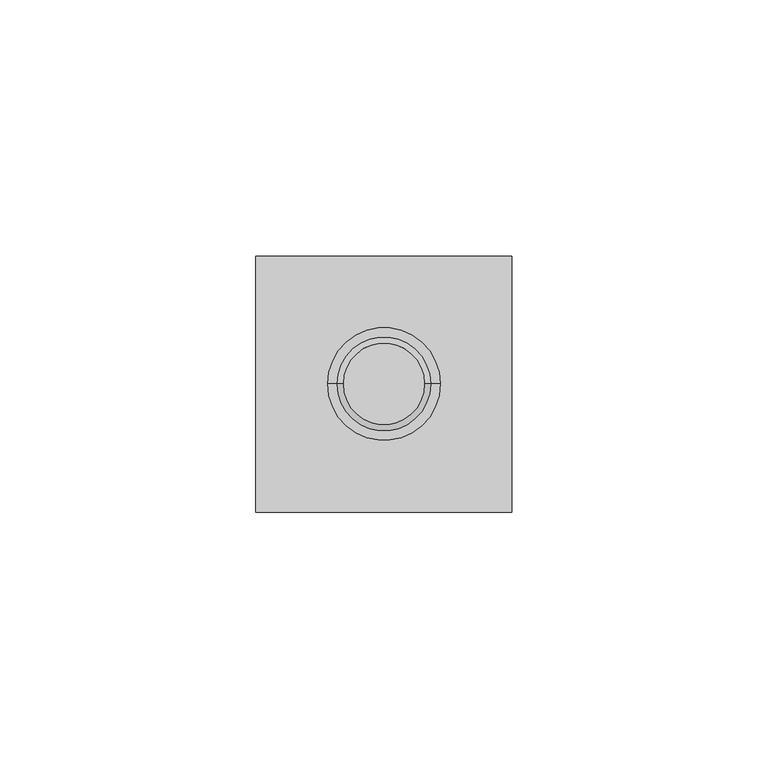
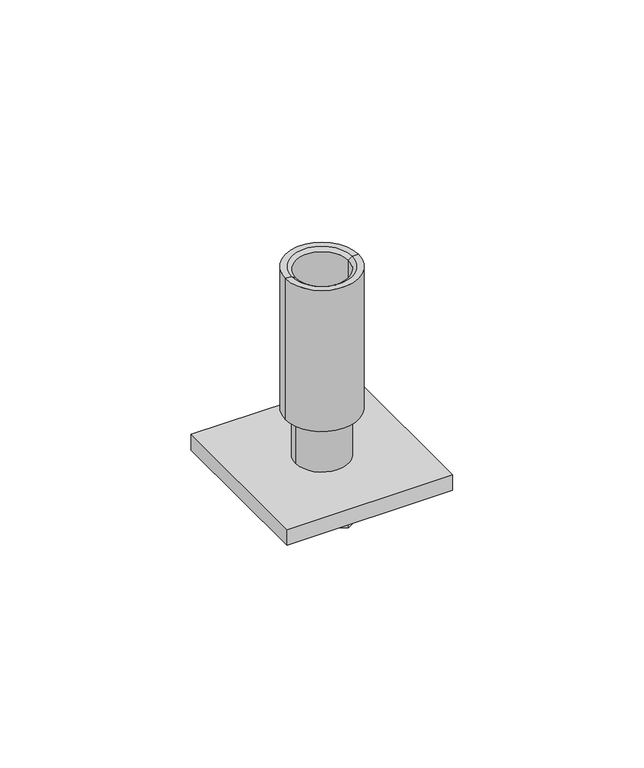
"""IFC4 building model written with IfcOpenShell, lengths in millimetres: fastener geometry, REC-HBP M16-75 EV : HBP M16-75 EV."""

from ifc_helpers import new_model, si_unit, point, frame, origin, origin_with_axes, origin_2d, place, context, project, spatial, polyline, circle_curve, trimmed, segment, composite_curve, outline, extrude, source, transform, mapped, element, save
from ifc_brep_helpers import plane_surface, cylinder_surface, revolved_surface, advanced_brep


def fastener_cdea0c5c(model_context):
    return source(origin(), model_context, "Body", "SolidModel", [
        advanced_brep(
        [(-9.2, 0.0, 0.0), (-11.0, 0.0, 0.0), (11.0, 0.0, 0.0), (9.2, 0.0, 0.0), (-8.0, 0.0, -0.8571429), (8.0, 0.0, -0.8571429), (-8.0, 0.0, -45.0), (8.0, 0.0, -45.0), (-11.0, 0.0, -45.0), (11.0, 0.0, -45.0)],
        [
            (0, 1),
            (1, 2, circle_curve(origin_with_axes(), 11.0)),
            (2, 3),
            (3, 0, circle_curve(frame((0.0, 0.0, 0.0), z_axis=(0.0, 0.0, -1.0), x_axis=(1.0, 0.0, 0.0)), 9.2)),
            (2, 1, circle_curve(origin_with_axes(), 11.0)),
            (0, 3, circle_curve(frame((0.0, 0.0, 0.0), z_axis=(0.0, 0.0, -1.0), x_axis=(1.0, 0.0, 0.0)), 9.2)),
            (4, 0),
            (3, 5),
            (5, 4, circle_curve(frame((0.0, 0.0, -0.8571429), z_axis=(0.0, 0.0, -1.0), x_axis=(1.0, 0.0, 0.0)), 8.0)),
            (4, 5, circle_curve(frame((0.0, 0.0, -0.8571429), z_axis=(0.0, 0.0, -1.0), x_axis=(1.0, 0.0, 0.0)), 8.0)),
            (6, 4),
            (5, 7),
            (7, 6, circle_curve(frame((0.0, 0.0, -45.0), z_axis=(0.0, 0.0, -1.0), x_axis=(1.0, 0.0, 0.0)), 8.0)),
            (6, 7, circle_curve(frame((0.0, 0.0, -45.0), z_axis=(0.0, 0.0, -1.0), x_axis=(1.0, 0.0, 0.0)), 8.0)),
            (8, 6),
            (7, 9),
            (9, 8, circle_curve(frame((0.0, 0.0, -45.0), z_axis=(0.0, 0.0, -1.0), x_axis=(1.0, 0.0, 0.0)), 11.0)),
            (8, 9, circle_curve(frame((0.0, 0.0, -45.0), z_axis=(0.0, 0.0, -1.0), x_axis=(1.0, 0.0, 0.0)), 11.0)),
            (1, 8),
            (9, 2),
        ],
        [
            plane_surface(origin_with_axes()),
            revolved_surface(polyline([(9.2, 0.0, 0.0), (8.0, 0.0, -0.8571429)]), (0.0, 0.0, 3.2703406), (0.0, 0.0, 1.0)),
            revolved_surface(polyline([(8.0, 0.0, -0.8571429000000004), (8.0, 0.0, -45.0)]), (0.0, 0.0, 3.2703406), (0.0, 0.0, 1.0)),
            plane_surface(frame((0.0, 0.0, -45.0), z_axis=(0.0, 0.0, -1.0), x_axis=(1.0, 0.0, 0.0))),
            cylinder_surface(frame((0.0, 0.0, 3.2703406), z_axis=(0.0, 0.0, 1.0), x_axis=(1.0, 0.0, 0.0)), 11.0),
        ],
        [
            (0, [[1, 2, 3, 4]]),
            (0, [[-3, 5, -1, 6]]),
            (1, [[7, -4, 8, 9]]),
            (1, [[-8, -6, -7, 10]]),
            (2, [[11, -9, 12, 13]]),
            (2, [[-12, -10, -11, 14]]),
            (3, [[15, -13, 16, 17]]),
            (3, [[-16, -14, -15, 18]]),
            (4, [[19, -17, 20, -2]]),
            (4, [[-20, -18, -19, -5]]),
        ],
    ),
        extrude(outline(composite_curve([segment(trimmed(circle_curve(origin_2d(), 8.0), [point((-8.0, 0.0))], [point((8.0, 0.0))], False, "CARTESIAN"), True, "CONTINUOUS"), segment(trimmed(circle_curve(origin_2d(), 8.0), [point((8.0, 0.0))], [point((-8.0, 0.0))], False, "CARTESIAN"), True, "CONTINUOUS")], self_intersect=False)), frame((0.0, 0.0, -60.0), z_axis=(0.0, 0.0, 1.0), x_axis=(1.0, 0.0, 0.0)), (0.0, 0.0, 1.0), 37.5),
        extrude(outline(polyline([(25.0, -25.0), (-25.0, -25.0), (-25.0, 25.0), (25.0, 25.0), (25.0, -25.0)])), frame((0.0, 0.0, -65.0), z_axis=(0.0, 0.0, 1.0), x_axis=(1.0, 0.0, 0.0)), (0.0, 0.0, 1.0), 5.0),
        extrude(outline(polyline([(-12.0, -6.9282032), (-12.0, 6.9282032), (0.0, 13.8564065), (12.0, 6.9282032), (12.0, -6.9282032), (0.0, -13.8564065), (-12.0, -6.9282032)])), frame((0.0, 0.0, -75.0), z_axis=(0.0, 0.0, 1.0), x_axis=(1.0, 0.0, 0.0)), (0.0, 0.0, 1.0), 10.0),
    ])


if __name__ == "__main__":
    model = new_model("IFC4")
    model_context = context("Model", 3, world=origin())
    ifc_project = project(units=[si_unit("LENGTHUNIT", "METRE", prefix="MILLI")], contexts=[model_context])
    site = spatial("IfcSite", under=ifc_project)
    building = spatial("IfcBuilding", under=site)
    placement = place(None, origin())
    fastener_shape = fastener_cdea0c5c(model_context)
    element("IfcFastener", 1, ObjectType="REC-HBP M16-75 EV : HBP M16-75 EV", at=placement, inside=building, context=model_context, shape_type="MappedRepresentation", body=[
        mapped(fastener_shape, transform((0.0, 0.0, 0.0), x_axis=(1.0, 0.0, 0.0), y_axis=(0.0, 1.0, 0.0), z_axis=(0.0, 0.0, 1.0))),
    ])
    save(model, "model.ifc")
